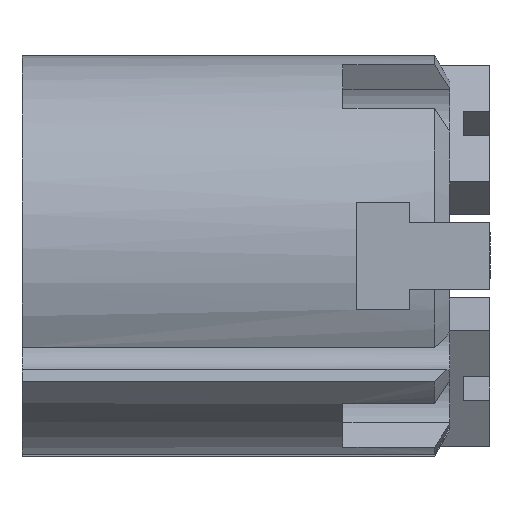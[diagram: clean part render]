
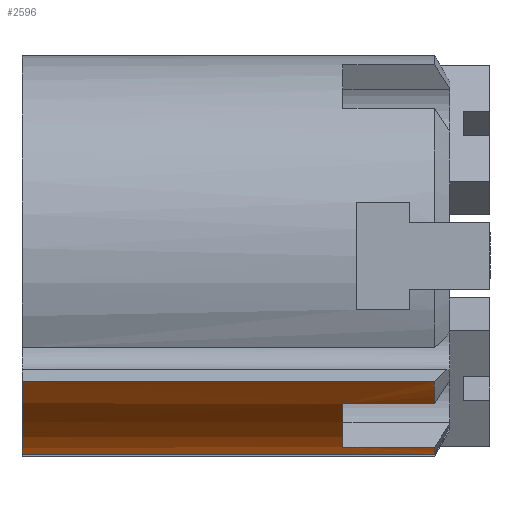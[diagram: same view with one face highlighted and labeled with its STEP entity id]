
A CAD part, left-side view. The second image highlights one B-rep face of the part: STEP entity #2596.
In plain terms, the highlighted cylindrical face has radius 15 mm (diameter 30 mm), a partial arc.
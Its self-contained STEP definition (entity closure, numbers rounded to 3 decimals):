
#9 = ORIENTED_EDGE ( 'NONE', *, *, #2859, .T. ) ;
#86 = DIRECTION ( 'NONE',  ( 1., 0., 0. ) ) ;
#350 = VERTEX_POINT ( 'NONE', #1539 ) ;
#579 = DIRECTION ( 'NONE',  ( 0., 1., 0. ) ) ;
#797 = LINE ( 'NONE', #4635, #2129 ) ;
#863 = VERTEX_POINT ( 'NONE', #5573 ) ;
#952 = AXIS2_PLACEMENT_3D ( 'NONE', #6316, #6045, #5917 ) ;
#1010 = EDGE_CURVE ( 'NONE', #863, #3644, #1654, .T. ) ;
#1011 = EDGE_LOOP ( 'NONE', ( #5027, #9, #3794, #6101, #1715, #2371, #5885, #4471 ) ) ;
#1125 = DIRECTION ( 'NONE',  ( 0., 1., 0. ) ) ;
#1176 = EDGE_CURVE ( 'NONE', #350, #4960, #5373, .T. ) ;
#1539 = CARTESIAN_POINT ( 'NONE',  ( -2.279, -30.845, -14.826 ) ) ;
#1654 = LINE ( 'NONE', #2010, #5146 ) ;
#1678 = DIRECTION ( 'NONE',  ( 1., 0., 0. ) ) ;
#1715 = ORIENTED_EDGE ( 'NONE', *, *, #5107, .T. ) ;
#2010 = CARTESIAN_POINT ( 'NONE',  ( -10.136, -15.423, -11.057 ) ) ;
#2125 = DIRECTION ( 'NONE',  ( 0., 1., 0. ) ) ;
#2129 = VECTOR ( 'NONE', #1125, 1000. ) ;
#2371 = ORIENTED_EDGE ( 'NONE', *, *, #3989, .F. ) ;
#2516 = DIRECTION ( 'NONE',  ( 0., -1., 0. ) ) ;
#2596 = ADVANCED_FACE ( 'NONE', ( #3199 ), #3909, .T. ) ;
#2663 = CARTESIAN_POINT ( 'NONE',  ( 0., -30.845, 0. ) ) ;
#2765 = LINE ( 'NONE', #6031, #3086 ) ;
#2800 = CARTESIAN_POINT ( 'NONE',  ( -11.7, -15.423, -9.387 ) ) ;
#2826 = AXIS2_PLACEMENT_3D ( 'NONE', #2961, #6406, #3469 ) ;
#2840 = EDGE_CURVE ( 'NONE', #350, #5683, #2765, .T. ) ;
#2859 = EDGE_CURVE ( 'NONE', #4357, #863, #4256, .T. ) ;
#2915 = EDGE_CURVE ( 'NONE', #3644, #5715, #6227, .T. ) ;
#2947 = EDGE_CURVE ( 'NONE', #4960, #4357, #797, .T. ) ;
#2961 = CARTESIAN_POINT ( 'NONE',  ( 0., 0., 0. ) ) ;
#3086 = VECTOR ( 'NONE', #579, 1000. ) ;
#3102 = DIRECTION ( 'NONE',  ( 0., 1., 0. ) ) ;
#3124 = AXIS2_PLACEMENT_3D ( 'NONE', #2663, #4660, #1678 ) ;
#3199 = FACE_OUTER_BOUND ( 'NONE', #1011, .T. ) ;
#3332 = AXIS2_PLACEMENT_3D ( 'NONE', #6052, #3102, #86 ) ;
#3469 = DIRECTION ( 'NONE',  ( 1., 0., 0. ) ) ;
#3644 = VERTEX_POINT ( 'NONE', #5506 ) ;
#3658 = CARTESIAN_POINT ( 'NONE',  ( -4.507, -30.845, -14.307 ) ) ;
#3794 = ORIENTED_EDGE ( 'NONE', *, *, #1010, .T. ) ;
#3909 = CYLINDRICAL_SURFACE ( 'NONE', #3124, 15. ) ;
#3989 = EDGE_CURVE ( 'NONE', #5683, #5949, #5544, .T. ) ;
#4172 = CARTESIAN_POINT ( 'NONE',  ( -11.7, 0., -9.387 ) ) ;
#4256 = CIRCLE ( 'NONE', #3332, 15. ) ;
#4332 = AXIS2_PLACEMENT_3D ( 'NONE', #5103, #2125, #5595 ) ;
#4357 = VERTEX_POINT ( 'NONE', #6307 ) ;
#4462 = VECTOR ( 'NONE', #5755, 1000. ) ;
#4471 = ORIENTED_EDGE ( 'NONE', *, *, #1176, .T. ) ;
#4635 = CARTESIAN_POINT ( 'NONE',  ( -4.507, -15.423, -14.307 ) ) ;
#4660 = DIRECTION ( 'NONE',  ( 0., -1., 0. ) ) ;
#4960 = VERTEX_POINT ( 'NONE', #3658 ) ;
#4969 = CARTESIAN_POINT ( 'NONE',  ( -2.279, 0., -14.826 ) ) ;
#5027 = ORIENTED_EDGE ( 'NONE', *, *, #2947, .T. ) ;
#5103 = CARTESIAN_POINT ( 'NONE',  ( 0., -30.845, 0. ) ) ;
#5107 = EDGE_CURVE ( 'NONE', #5715, #5949, #5446, .T. ) ;
#5146 = VECTOR ( 'NONE', #2516, 1000. ) ;
#5373 = CIRCLE ( 'NONE', #952, 15. ) ;
#5446 = LINE ( 'NONE', #2800, #4462 ) ;
#5474 = CARTESIAN_POINT ( 'NONE',  ( -11.7, -30.845, -9.387 ) ) ;
#5506 = CARTESIAN_POINT ( 'NONE',  ( -10.136, -30.845, -11.057 ) ) ;
#5544 = CIRCLE ( 'NONE', #2826, 15. ) ;
#5573 = CARTESIAN_POINT ( 'NONE',  ( -10.136, -24., -11.057 ) ) ;
#5595 = DIRECTION ( 'NONE',  ( -0.152, 0., -0.988 ) ) ;
#5683 = VERTEX_POINT ( 'NONE', #4969 ) ;
#5715 = VERTEX_POINT ( 'NONE', #5474 ) ;
#5755 = DIRECTION ( 'NONE',  ( 0., 1., 0. ) ) ;
#5885 = ORIENTED_EDGE ( 'NONE', *, *, #2840, .F. ) ;
#5917 = DIRECTION ( 'NONE',  ( -0.152, 0., -0.988 ) ) ;
#5949 = VERTEX_POINT ( 'NONE', #4172 ) ;
#6031 = CARTESIAN_POINT ( 'NONE',  ( -2.279, 0., -14.826 ) ) ;
#6045 = DIRECTION ( 'NONE',  ( 0., 1., 0. ) ) ;
#6052 = CARTESIAN_POINT ( 'NONE',  ( 0., -24., 0. ) ) ;
#6101 = ORIENTED_EDGE ( 'NONE', *, *, #2915, .T. ) ;
#6227 = CIRCLE ( 'NONE', #4332, 15. ) ;
#6307 = CARTESIAN_POINT ( 'NONE',  ( -4.507, -24., -14.307 ) ) ;
#6316 = CARTESIAN_POINT ( 'NONE',  ( 0., -30.845, 0. ) ) ;
#6406 = DIRECTION ( 'NONE',  ( 0., 1., 0. ) ) ;
